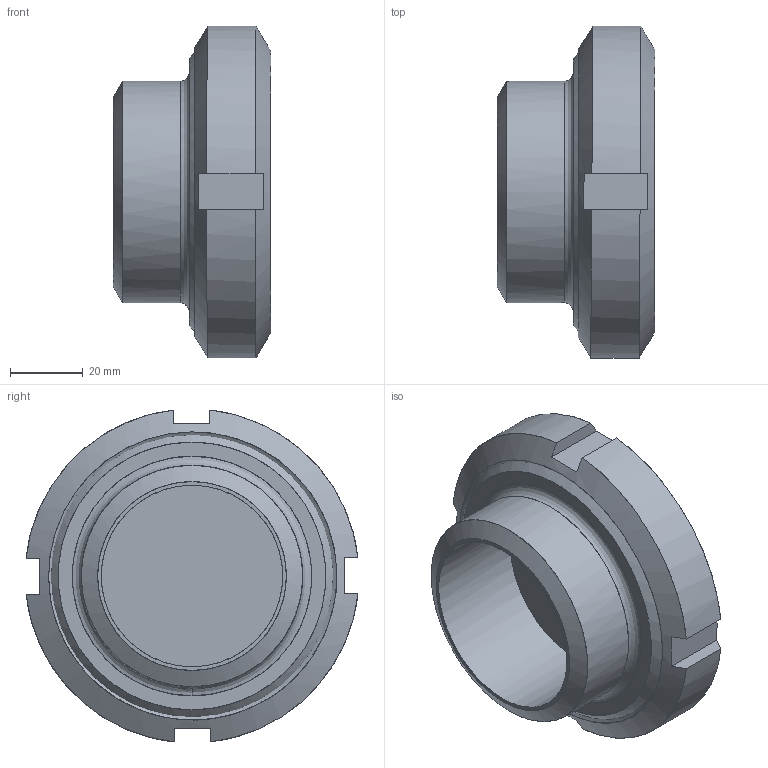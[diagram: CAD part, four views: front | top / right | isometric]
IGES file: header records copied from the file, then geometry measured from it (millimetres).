
Start section: C
Global section: file name: MV 50.igs; native system: By Siemens PLM Incorporated; preprocessor: XPlus GENERIC/IGES 18.0.17; author: Author; organization: Title; date: 20160118.152111; units: millimetre
Bounding box: 43.5 x 91.47 x 91.47 mm (x, y, z)
Surface area: 54283.7 mm2 (no closed solid volume)
Topology: 0 solids, 0 shells, 55 faces, 302 edges, 302 vertices
Faces by surface type: bspline 55
